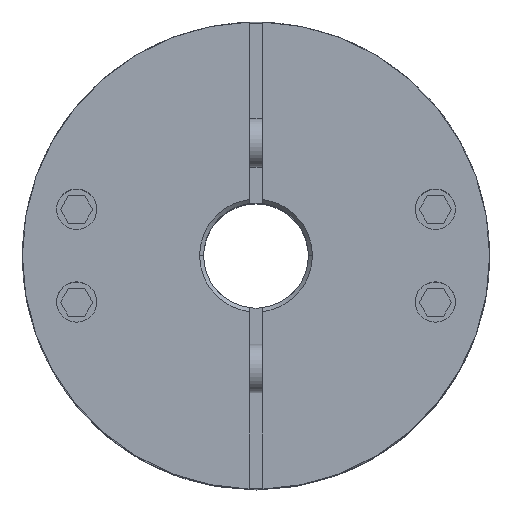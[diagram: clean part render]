
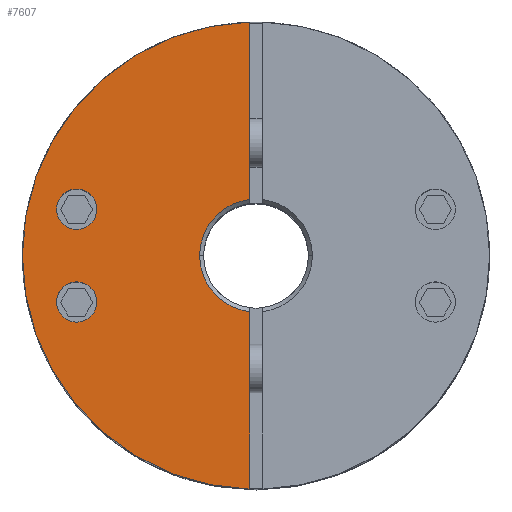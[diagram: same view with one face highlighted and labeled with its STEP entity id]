
A CAD part, top view. The second image highlights one B-rep face of the part: STEP entity #7607.
In plain terms, the highlighted planar face has unit normal (0, 0, 1).
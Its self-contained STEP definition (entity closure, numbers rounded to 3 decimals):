
#4221=CARTESIAN_POINT('',(-19.767,-5.759,27.125));
#4222=VERTEX_POINT('',#4221);
#4231=CARTESIAN_POINT('',(-24.767,-5.759,27.125));
#4232=VERTEX_POINT('',#4231);
#4233=CARTESIAN_POINT('',(-22.267,-5.759,27.125));
#4234=DIRECTION('',(0.0,0.0,-1.0));
#4235=DIRECTION('',(1.0,0.0,0.0));
#4236=AXIS2_PLACEMENT_3D('',#4233,#4234,#4235);
#4237=CIRCLE('',#4236,2.5);
#4238=EDGE_CURVE('',#4232,#4222,#4237,.T.);
#4347=CARTESIAN_POINT('',(-19.767,5.759,27.125));
#4348=VERTEX_POINT('',#4347);
#4357=CARTESIAN_POINT('',(-24.767,5.759,27.125));
#4358=VERTEX_POINT('',#4357);
#4359=CARTESIAN_POINT('',(-22.267,5.759,27.125));
#4360=DIRECTION('',(0.0,0.0,-1.0));
#4361=DIRECTION('',(1.0,0.0,0.0));
#4362=AXIS2_PLACEMENT_3D('',#4359,#4360,#4361);
#4363=CIRCLE('',#4362,2.5);
#4364=EDGE_CURVE('',#4358,#4348,#4363,.T.);
#4576=CARTESIAN_POINT('',(-29.0,0.,27.125));
#4577=VERTEX_POINT('',#4576);
#4584=CARTESIAN_POINT('',(-0.75,28.99,27.125));
#4585=VERTEX_POINT('',#4584);
#4586=CARTESIAN_POINT('',(0.0,0.0,27.125));
#4587=DIRECTION('',(0.0,0.0,-1.0));
#4588=DIRECTION('',(1.0,0.0,0.0));
#4589=AXIS2_PLACEMENT_3D('',#4586,#4587,#4588);
#4590=CIRCLE('',#4589,29.0);
#4591=EDGE_CURVE('',#4577,#4585,#4590,.T.);
#4942=CARTESIAN_POINT('',(-7.0,0.,27.125));
#4943=VERTEX_POINT('',#4942);
#4959=CARTESIAN_POINT('',(-0.75,6.96,27.125));
#4960=VERTEX_POINT('',#4959);
#4974=CARTESIAN_POINT('',(0.0,0.0,27.125));
#4975=DIRECTION('',(0.0,0.0,1.0));
#4976=DIRECTION('',(-1.0,0.0,0.0));
#4977=AXIS2_PLACEMENT_3D('',#4974,#4975,#4976);
#4978=CIRCLE('',#4977,7.0);
#4979=EDGE_CURVE('',#4960,#4943,#4978,.T.);
#7360=CARTESIAN_POINT('',(-0.75,-6.96,27.125));
#7361=VERTEX_POINT('',#7360);
#7362=CARTESIAN_POINT('',(0.0,0.0,27.125));
#7363=DIRECTION('',(0.0,0.0,1.0));
#7364=DIRECTION('',(-1.0,0.0,0.0));
#7365=AXIS2_PLACEMENT_3D('',#7362,#7363,#7364);
#7366=CIRCLE('',#7365,7.0);
#7367=EDGE_CURVE('',#4943,#7361,#7366,.T.);
#7400=CARTESIAN_POINT('',(-0.75,6.96,27.125));
#7401=DIRECTION('',(0.0,1.0,0.0));
#7402=VECTOR('',#7401,22.031);
#7403=LINE('',#7400,#7402);
#7404=EDGE_CURVE('',#4960,#4585,#7403,.T.);
#7514=CARTESIAN_POINT('',(-0.75,-28.99,27.125));
#7515=VERTEX_POINT('',#7514);
#7516=CARTESIAN_POINT('',(-0.75,-28.99,27.125));
#7517=DIRECTION('',(0.0,1.0,0.0));
#7518=VECTOR('',#7517,22.031);
#7519=LINE('',#7516,#7518);
#7520=EDGE_CURVE('',#7515,#7361,#7519,.T.);
#7568=CARTESIAN_POINT('',(2.636,0.,27.125));
#7569=DIRECTION('',(0.0,0.0,1.0));
#7570=DIRECTION('',(1.0,0.0,0.0));
#7571=AXIS2_PLACEMENT_3D('',#7568,#7569,#7570);
#7572=PLANE('',#7571);
#7573=ORIENTED_EDGE('',*,*,#4979,.F.);
#7574=ORIENTED_EDGE('',*,*,#7404,.T.);
#7575=ORIENTED_EDGE('',*,*,#4591,.F.);
#7576=CARTESIAN_POINT('',(0.0,0.0,27.125));
#7577=DIRECTION('',(0.0,0.0,-1.0));
#7578=DIRECTION('',(1.0,0.0,0.0));
#7579=AXIS2_PLACEMENT_3D('',#7576,#7577,#7578);
#7580=CIRCLE('',#7579,29.0);
#7581=EDGE_CURVE('',#7515,#4577,#7580,.T.);
#7582=ORIENTED_EDGE('',*,*,#7581,.F.);
#7583=ORIENTED_EDGE('',*,*,#7520,.T.);
#7584=ORIENTED_EDGE('',*,*,#7367,.F.);
#7585=EDGE_LOOP('',(#7573,#7574,#7575,#7582,#7583,#7584));
#7586=FACE_OUTER_BOUND('',#7585,.T.);
#7587=CARTESIAN_POINT('',(-22.267,-5.759,27.125));
#7588=DIRECTION('',(0.0,0.0,-1.0));
#7589=DIRECTION('',(1.0,0.0,0.0));
#7590=AXIS2_PLACEMENT_3D('',#7587,#7588,#7589);
#7591=CIRCLE('',#7590,2.5);
#7592=EDGE_CURVE('',#4222,#4232,#7591,.T.);
#7593=ORIENTED_EDGE('',*,*,#7592,.T.);
#7594=ORIENTED_EDGE('',*,*,#4238,.T.);
#7595=EDGE_LOOP('',(#7593,#7594));
#7596=FACE_BOUND('',#7595,.T.);
#7597=CARTESIAN_POINT('',(-22.267,5.759,27.125));
#7598=DIRECTION('',(0.0,0.0,-1.0));
#7599=DIRECTION('',(1.0,0.0,0.0));
#7600=AXIS2_PLACEMENT_3D('',#7597,#7598,#7599);
#7601=CIRCLE('',#7600,2.5);
#7602=EDGE_CURVE('',#4348,#4358,#7601,.T.);
#7603=ORIENTED_EDGE('',*,*,#7602,.T.);
#7604=ORIENTED_EDGE('',*,*,#4364,.T.);
#7605=EDGE_LOOP('',(#7603,#7604));
#7606=FACE_BOUND('',#7605,.T.);
#7607=ADVANCED_FACE('',(#7586,#7596,#7606),#7572,.T.);
